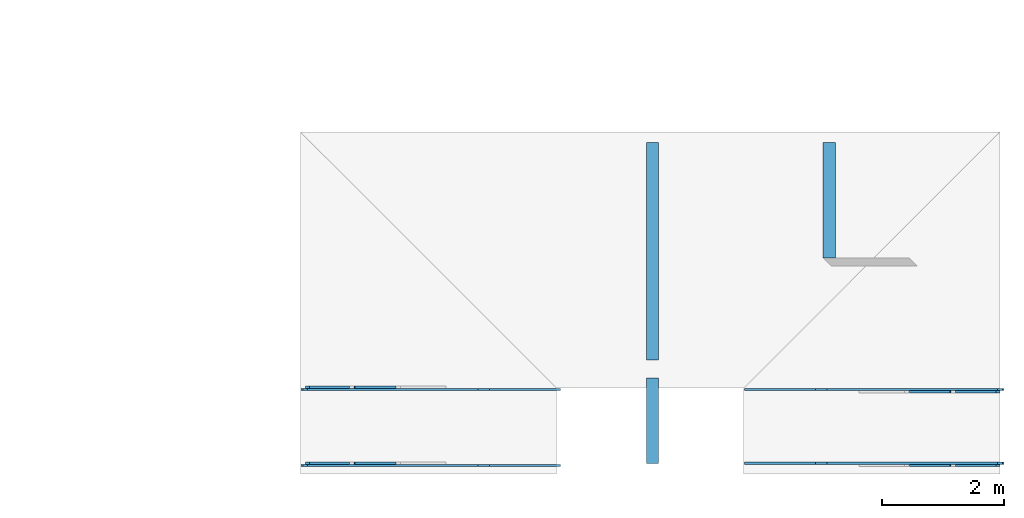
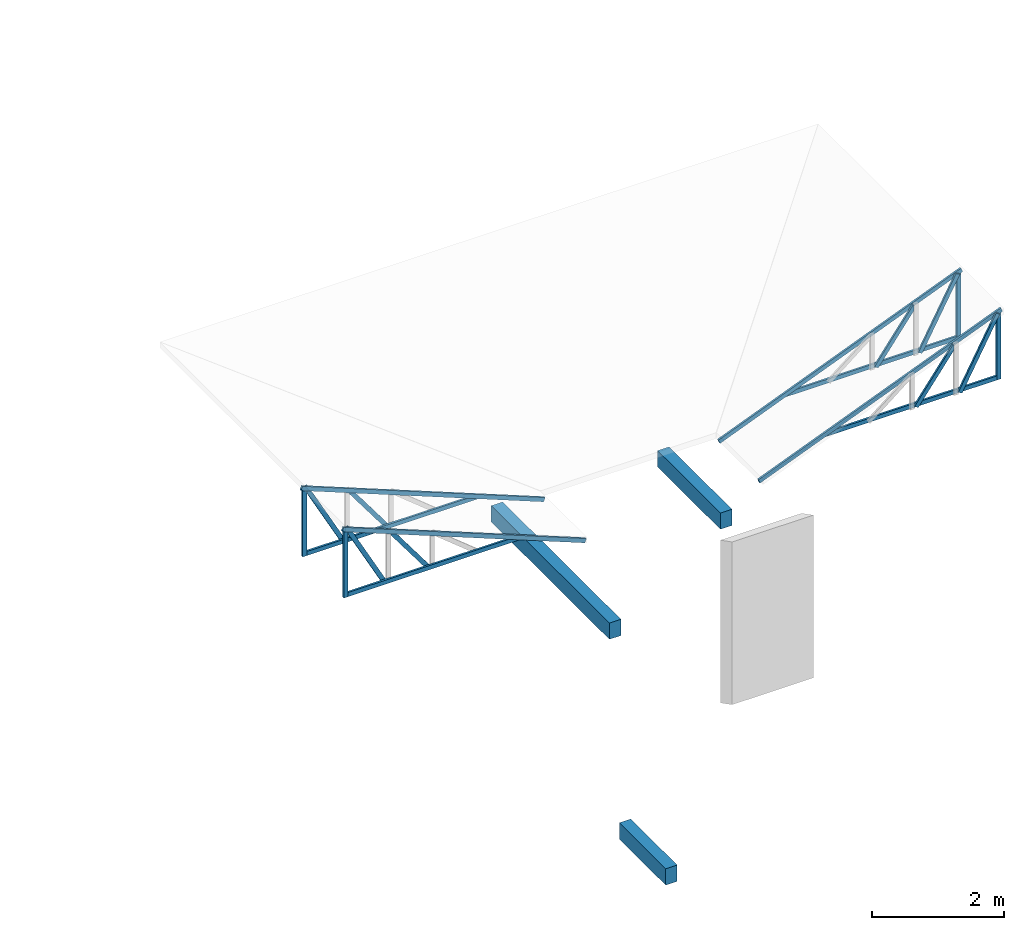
# One storey, part 1 of 4: 20 members, 3 beams, 4 elements without a shape of their own.
"""IFC4X3_ADD2 building model written with IfcOpenShell, lengths in millimetres."""

from ifc_helpers import new_model, entity, si_unit, converted_unit, frame, origin_with_axes, origin_2d_with_axis, place, context, subcontext, project, spatial, rectangle, extrude, clip, halfspace, material, material_profile, profile_set, profile_usage, type_object, element, aggregate, save


model = new_model("IFC4X3_ADD2")

# Units and contexts
model_context = context("Model", 3, precision=1e-05, world=origin_with_axes())
plan_context = context("Plan", 2, precision=1e-05, world=origin_2d_with_axis())
body_context = subcontext(model_context, "Body", "Model", "MODEL_VIEW")
ifc_project = project(units=[si_unit("VOLUMEUNIT", "CUBIC_METRE"), si_unit("LENGTHUNIT", "METRE", prefix="MILLI"), converted_unit("PLANEANGLEUNIT", "degree", entity("IfcReal", 0.0174532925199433), si_unit("PLANEANGLEUNIT", "RADIAN"), dimensions=[0, 0, 0, 0, 0, 0, 0]), si_unit("AREAUNIT", "SQUARE_METRE")], contexts=[model_context, plan_context])

# Site, building, storey
site_placement = place(None, origin_with_axes())
site = spatial("IfcSite", under=ifc_project, at=site_placement, Name="My Site")
building_placement = place(site_placement, origin_with_axes())
building = spatial("IfcBuilding", under=site, at=building_placement, Name="My Building")
storey_placement = place(building_placement, origin_with_axes())
storey = spatial("IfcBuildingStorey", under=building, at=storey_placement, Name="Riang Blok")

# Beams
ifc_material_1 = material(Name="plester")
ifc_material_profile_1 = material_profile(ifc_material_1, rectangle(XDim=200.0, YDim=300.0))
ifc_profile_set_1 = profile_set([ifc_material_profile_1])
ifc_profile_usage_1 = profile_usage(ifc_profile_set_1, cardinal=8)
beam_type = type_object("IfcBeamType", Name="TB1", PredefinedType="BEAM", material=ifc_profile_set_1)
beam_1_placement = place(storey_placement, frame((5720.00026702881, 1549.99983310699, 0.0), z_axis=(0.0, -0.999999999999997, 7.54978986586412e-08), x_axis=(1.0, 0.0, 0.0)))
element("IfcBeam", 1, at=beam_1_placement, inside=storey, type_object=beam_type, material=ifc_profile_usage_1, Name="Beam", context=body_context, shape_type="SweptSolid", body=[
    extrude(rectangle(XDim=200.0, YDim=300.0), frame((0.0, -150.0, 0.0), z_axis=(0.0, 0.0, 1.0), x_axis=(1.0, 0.0, 0.0)), (0.0, 0.0, 1.0), 1399.99984332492),
])
ifc_profile_usage_2 = profile_usage(ifc_profile_set_1, cardinal=8)
beam_2_placement = place(storey_placement, frame((5720.00026702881, 5419.99959945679, 3500.00023841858), z_axis=(0.0, -0.999999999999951, 3.13916473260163e-07), x_axis=(1.0, 0.0, 0.0)))
element("IfcBeam", 2, at=beam_2_placement, inside=storey, type_object=beam_type, material=ifc_profile_usage_2, Name="Beam", context=body_context, shape_type="SweptSolid", body=[
    extrude(rectangle(XDim=200.0, YDim=300.0), frame((0.0, -150.0, 0.0), z_axis=(0.0, 0.0, 1.0), x_axis=(1.0, 0.0, 0.0)), (0.0, 0.0, 1.0), 3569.99943068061),
])
ifc_profile_usage_3 = profile_usage(ifc_profile_set_1, cardinal=9)
beam_3_placement = place(storey_placement, frame((8520.00045776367, 5419.99959945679, 3500.00023841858), z_axis=(0.0, -0.999999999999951, 3.13916473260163e-07), x_axis=(1.0, 0.0, 0.0)))
element("IfcBeam", 3, at=beam_3_placement, inside=storey, type_object=beam_type, material=ifc_profile_usage_3, Name="Beam", context=body_context, shape_type="SweptSolid", body=[
    extrude(rectangle(XDim=200.0, YDim=300.0), frame((100.0, -150.0, 0.0), z_axis=(0.0, 0.0, 1.0), x_axis=(1.0, 0.0, 0.0)), (0.0, 0.0, 1.0), 1899.99959594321),
])

# Assembly, members
assembly_1_placement = place(storey_placement, frame((11460.0009918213, 135.63671708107, 6999.99952316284), z_axis=(0.0, 0.0, 1.0), x_axis=(-0.999999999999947, 3.25841369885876e-07, 0.0)))
assembly_1 = element("IfcElementAssembly", 4, at=assembly_1_placement, inside=storey, Name="KUDA KUDA_1")
ifc_material_2 = material(Name="Galvanis")
ifc_material_profile_2 = material_profile(ifc_material_2, rectangle(XDim=35.0, YDim=75.0))
ifc_profile_set_2 = profile_set([ifc_material_profile_2])
ifc_profile_usage_4 = profile_usage(ifc_profile_set_2, cardinal=8)
member_type = type_object("IfcMemberType", Name="C75", PredefinedType="MEMBER", material=ifc_profile_set_2)
member_1_placement = place(assembly_1_placement, frame((4230.94511602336, -17.4996030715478, -385.380744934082), z_axis=(-0.928827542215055, 1.77179023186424e-07, 0.370512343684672), x_axis=(-1.62920684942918e-07, -0.999999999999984, 6.97784727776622e-08)))
member_1 = element("IfcMember", 5, at=member_1_placement, type_object=member_type, material=ifc_profile_usage_4, Name="Member", context=body_context, shape_type="SweptSolid", body=[
    extrude(rectangle(XDim=35.0, YDim=75.0), frame((0.0, -37.5, 0.0), z_axis=(0.0, 0.0, 1.0), x_axis=(1.0, 0.0, 0.0)), (0.0, 0.0, 1.0), 4555.14518833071),
])
ifc_profile_usage_5 = profile_usage(ifc_profile_set_2, cardinal=8)
member_2_placement = place(assembly_1_placement, frame((700.000757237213, 17.5001592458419, 0.0), z_axis=(-0.47343433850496, 1.25252025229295e-07, 0.880829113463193), x_axis=(7.54978941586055e-08, 0.999999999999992, -1.01618709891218e-07)))
member_2 = element("IfcMember", 6, at=member_2_placement, type_object=member_type, material=ifc_profile_usage_5, Name="Member", context=body_context, shape_type="SweptSolid", body=[
    extrude(rectangle(XDim=35.0, YDim=75.0), frame((0.0, -37.5, 0.0), z_axis=(0.0, 0.0, 1.0), x_axis=(1.0, 0.0, 0.0)), (0.0, 0.0, 1.0), 1391.96378578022),
])
ifc_profile_usage_6 = profile_usage(ifc_profile_set_2, cardinal=8)
member_3_placement = place(assembly_1_placement, frame((5.70219782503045e-06, -17.4999237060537, 1296.60940170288), z_axis=(8.74228181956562e-08, -3.89414367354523e-07, -0.999999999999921), x_axis=(1.62920684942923e-07, -0.999999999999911, 3.8941436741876e-07)))
member_3 = element("IfcMember", 7, at=member_3_placement, type_object=member_type, material=ifc_profile_usage_6, Name="Member", context=body_context, shape_type="Clipping", body=[
    clip(extrude(rectangle(XDim=35.0, YDim=75.0), frame((0.0, -37.5, 0.0), z_axis=(0.0, 0.0, 1.0), x_axis=(1.0, 0.0, 0.0)), (0.0, 0.0, 1.0), 1296.6089090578), halfspace(frame((-0.0003221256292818, -4203.15599441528, 1751.65259838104), z_axis=(4.8014862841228e-07, -0.370512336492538, -0.928827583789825), x_axis=(-0.99999999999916, -1.29590456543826e-06, 0.0)), False)),
])
ifc_profile_usage_7 = profile_usage(ifc_profile_set_2, cardinal=8)
member_4_placement = place(assembly_1_placement, frame((1466.0625400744, 17.4994551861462, 0.00095367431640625), z_axis=(-0.59614749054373, 7.2466860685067e-08, 0.802874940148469), x_axis=(7.54978941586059e-08, 0.999999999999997, -3.42008306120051e-08)))
member_4 = element("IfcMember", 8, at=member_4_placement, type_object=member_type, material=ifc_profile_usage_7, Name="Member", context=body_context, shape_type="Clipping", body=[
    clip(extrude(rectangle(XDim=35.0, YDim=75.0), frame((0.0, -37.5, 0.0), z_axis=(0.0, 0.0, 1.0), x_axis=(1.0, 0.0, 0.0)), (0.0, 0.0, 1.0), 1123.39629998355), halfspace(frame((0.000651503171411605, -71.6517344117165, 1144.89555358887), z_axis=(-2.52327623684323e-07, 0.802874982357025, 0.596147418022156), x_axis=(0.999999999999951, 3.14280092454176e-07, 0.0)), False)),
])
ifc_profile_usage_8 = profile_usage(ifc_profile_set_2, cardinal=2)
member_5_placement = place(assembly_1_placement, frame((75.0007686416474, -17.4998992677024, 0.0), z_axis=(0.999999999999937, 1.62920770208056e-07, 3.13916473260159e-07), x_axis=(-1.62920684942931e-07, 0.999999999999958, -2.38418536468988e-07)))
member_5 = element("IfcMember", 9, at=member_5_placement, type_object=member_type, material=ifc_profile_usage_8, Name="Member", context=body_context, shape_type="Clipping", body=[
    clip(extrude(rectangle(XDim=35.0, YDim=75.0), frame((0.0, 37.5, 0.0), z_axis=(0.0, 0.0, 1.0), x_axis=(1.0, 0.0, 0.0)), (0.0, 0.0, 1.0), 3062.4179439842), halfspace(frame((-0.000269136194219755, -455.043941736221, 4128.15570831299), z_axis=(-3.39899543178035e-07, 0.928827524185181, 0.370512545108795), x_axis=(0.999999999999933, 3.65944736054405e-07, 0.0)), False)),
])
aggregate(assembly_1, [member_1, member_2, member_3, member_4, member_5])

assembly_2_placement = place(storey_placement, frame((-19.9997760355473, 135.000050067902, 6997.18856811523), z_axis=(0.0, 0.0, 1.0), x_axis=(1.0, 0.0, 0.0)))
assembly_2 = element("IfcElementAssembly", 10, at=assembly_2_placement, inside=storey, Name="KUDA KUDA_0")
ifc_profile_usage_9 = profile_usage(ifc_profile_set_2, cardinal=8)
member_6_placement = place(assembly_2_placement, frame((4230.94490543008, -17.4995958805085, -385.380744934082), z_axis=(-0.928827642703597, 1.90105891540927e-07, 0.370512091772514), x_axis=(-1.62920684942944e-07, -0.999999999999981, 1.04667726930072e-07)))
member_6 = element("IfcMember", 11, at=member_6_placement, type_object=member_type, material=ifc_profile_usage_9, Name="Member.001", context=body_context, shape_type="SweptSolid", body=[
    extrude(rectangle(XDim=35.0, YDim=75.0), frame((0.0, -37.5, 0.0), z_axis=(0.0, 0.0, 1.0), x_axis=(1.0, 0.0, 0.0)), (0.0, 0.0, 1.0), 4555.14518833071),
])
ifc_profile_usage_10 = profile_usage(ifc_profile_set_2, cardinal=8)
member_7_placement = place(assembly_2_placement, frame((700.000796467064, 17.5001621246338, 0.0), z_axis=(-0.473434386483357, 6.93084101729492e-08, 0.880829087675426), x_axis=(-4.37113882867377e-08, 0.999999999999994, -1.02179740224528e-07)))
member_7 = element("IfcMember", 12, at=member_7_placement, type_object=member_type, material=ifc_profile_usage_10, Name="Member.002", context=body_context, shape_type="SweptSolid", body=[
    extrude(rectangle(XDim=35.0, YDim=75.0), frame((0.0, -37.5, 0.0), z_axis=(0.0, 0.0, 1.0), x_axis=(1.0, 0.0, 0.0)), (0.0, 0.0, 1.0), 1391.96378578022),
])
ifc_profile_usage_11 = profile_usage(ifc_profile_set_2, cardinal=8)
member_8_placement = place(assembly_2_placement, frame((1466.06246009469, 17.4994617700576, 0.00095367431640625), z_axis=(-0.596147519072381, 8.8617830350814e-10, 0.802874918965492), x_axis=(-4.37113882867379e-08, 0.999999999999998, -3.3560166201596e-08)))
member_8 = element("IfcMember", 13, at=member_8_placement, type_object=member_type, material=ifc_profile_usage_11, Name="Member.003", context=body_context, shape_type="Clipping", body=[
    clip(extrude(rectangle(XDim=35.0, YDim=75.0), frame((0.0, -37.5, 0.0), z_axis=(0.0, 0.0, 1.0), x_axis=(1.0, 0.0, 0.0)), (0.0, 0.0, 1.0), 1123.39629998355), halfspace(frame((0.000651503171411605, -71.6517344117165, 1144.89555358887), z_axis=(-2.52327623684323e-07, 0.802874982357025, 0.596147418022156), x_axis=(0.999999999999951, 3.14280092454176e-07, 0.0)), False)),
])
ifc_profile_usage_12 = profile_usage(ifc_profile_set_2, cardinal=8)
member_9_placement = place(assembly_2_placement, frame((5.58793544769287e-06, -17.4999162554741, 1296.60987854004), z_axis=(1.50995873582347e-07, -3.89414338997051e-07, -0.999999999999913), x_axis=(1.94707183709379e-07, -0.999999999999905, 3.89414367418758e-07)))
member_9 = element("IfcMember", 14, at=member_9_placement, type_object=member_type, material=ifc_profile_usage_12, Name="Member.005", context=body_context, shape_type="Clipping", body=[
    clip(extrude(rectangle(XDim=35.0, YDim=75.0), frame((0.0, -37.5, 0.0), z_axis=(0.0, 0.0, 1.0), x_axis=(1.0, 0.0, 0.0)), (0.0, 0.0, 1.0), 1296.6089090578), halfspace(frame((-0.0003221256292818, -4203.15599441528, 1751.65259838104), z_axis=(4.8014862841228e-07, -0.370512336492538, -0.928827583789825), x_axis=(-0.99999999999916, -1.29590456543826e-06, 0.0)), False)),
])
ifc_profile_usage_13 = profile_usage(ifc_profile_set_2, cardinal=2)
member_10_placement = place(assembly_2_placement, frame((75.0007703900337, -17.4998939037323, 0.0), z_axis=(0.999999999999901, 4.01339292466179e-07, 1.94707183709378e-07), x_axis=(-4.01339264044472e-07, 0.999999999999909, -1.49011640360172e-07)))
member_10 = element("IfcMember", 15, at=member_10_placement, type_object=member_type, material=ifc_profile_usage_13, Name="Member.007", context=body_context, shape_type="Clipping", body=[
    clip(extrude(rectangle(XDim=35.0, YDim=75.0), frame((0.0, 37.5, 0.0), z_axis=(0.0, 0.0, 1.0), x_axis=(1.0, 0.0, 0.0)), (0.0, 0.0, 1.0), 3062.4179439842), halfspace(frame((-0.000269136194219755, -455.043941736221, 4128.15570831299), z_axis=(-3.39899543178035e-07, 0.928827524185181, 0.370512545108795), x_axis=(0.999999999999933, 3.65944736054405e-07, 0.0)), False)),
])
aggregate(assembly_2, [member_6, member_7, member_8, member_9, member_10])

assembly_3_placement = place(storey_placement, frame((-19.7176039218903, 1382.21764564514, 6997.0760345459), z_axis=(0.0, 0.0, 1.0), x_axis=(1.0, 0.0, 0.0)))
assembly_3 = element("IfcElementAssembly", 16, at=assembly_3_placement, inside=storey, Name="KUDA KUDA_2")
ifc_profile_usage_14 = profile_usage(ifc_profile_set_2, cardinal=8)
member_11_placement = place(assembly_3_placement, frame((4230.94502091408, -17.4995660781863, -385.380744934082), z_axis=(-0.928827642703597, 1.90105891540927e-07, 0.370512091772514), x_axis=(-1.62920684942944e-07, -0.999999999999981, 1.04667726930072e-07)))
member_11 = element("IfcMember", 17, at=member_11_placement, type_object=member_type, material=ifc_profile_usage_14, Name="Member.015", context=body_context, shape_type="SweptSolid", body=[
    extrude(rectangle(XDim=35.0, YDim=75.0), frame((0.0, -37.5, 0.0), z_axis=(0.0, 0.0, 1.0), x_axis=(1.0, 0.0, 0.0)), (0.0, 0.0, 1.0), 4555.14518833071),
])
ifc_profile_usage_15 = profile_usage(ifc_profile_set_2, cardinal=8)
member_12_placement = place(assembly_3_placement, frame((700.000792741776, 17.5001621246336, 0.0), z_axis=(-0.473434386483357, 6.93084101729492e-08, 0.880829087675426), x_axis=(-4.37113882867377e-08, 0.999999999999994, -1.02179740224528e-07)))
member_12 = element("IfcMember", 18, at=member_12_placement, type_object=member_type, material=ifc_profile_usage_15, Name="Member.113", context=body_context, shape_type="SweptSolid", body=[
    extrude(rectangle(XDim=35.0, YDim=75.0), frame((0.0, -37.5, 0.0), z_axis=(0.0, 0.0, 1.0), x_axis=(1.0, 0.0, 0.0)), (0.0, 0.0, 1.0), 1391.96378578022),
])
ifc_profile_usage_16 = profile_usage(ifc_profile_set_2, cardinal=8)
member_13_placement = place(assembly_3_placement, frame((1466.0624563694, 17.4994468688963, 0.00095367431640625), z_axis=(-0.596147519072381, 8.8617830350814e-10, 0.802874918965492), x_axis=(-4.37113882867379e-08, 0.999999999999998, -3.3560166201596e-08)))
member_13 = element("IfcMember", 19, at=member_13_placement, type_object=member_type, material=ifc_profile_usage_16, Name="Member.114", context=body_context, shape_type="Clipping", body=[
    clip(extrude(rectangle(XDim=35.0, YDim=75.0), frame((0.0, -37.5, 0.0), z_axis=(0.0, 0.0, 1.0), x_axis=(1.0, 0.0, 0.0)), (0.0, 0.0, 1.0), 1123.39629998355), halfspace(frame((0.000651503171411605, -71.6517344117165, 1144.89555358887), z_axis=(-2.52327623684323e-07, 0.802874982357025, 0.596147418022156), x_axis=(0.999999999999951, 3.14280092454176e-07, 0.0)), False)),
])
ifc_profile_usage_17 = profile_usage(ifc_profile_set_2, cardinal=8)
member_14_placement = place(assembly_3_placement, frame((5.58793544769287e-06, -17.4999237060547, 1296.60987854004), z_axis=(1.50995873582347e-07, -3.89414338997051e-07, -0.999999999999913), x_axis=(1.94707183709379e-07, -0.999999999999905, 3.89414367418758e-07)))
member_14 = element("IfcMember", 20, at=member_14_placement, type_object=member_type, material=ifc_profile_usage_17, Name="Member.117", context=body_context, shape_type="Clipping", body=[
    clip(extrude(rectangle(XDim=35.0, YDim=75.0), frame((0.0, -37.5, 0.0), z_axis=(0.0, 0.0, 1.0), x_axis=(1.0, 0.0, 0.0)), (0.0, 0.0, 1.0), 1296.6089090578), halfspace(frame((-0.0003221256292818, -4203.15599441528, 1751.65259838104), z_axis=(4.8014862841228e-07, -0.370512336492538, -0.928827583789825), x_axis=(-0.99999999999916, -1.29590456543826e-06, 0.0)), False)),
])
ifc_profile_usage_18 = profile_usage(ifc_profile_set_2, cardinal=2)
member_15_placement = place(assembly_3_placement, frame((75.0007703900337, -17.4999237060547, 0.0), z_axis=(0.999999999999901, 4.01339292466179e-07, 1.94707183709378e-07), x_axis=(-4.01339264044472e-07, 0.999999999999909, -1.49011640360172e-07)))
member_15 = element("IfcMember", 21, at=member_15_placement, type_object=member_type, material=ifc_profile_usage_18, Name="Member.120", context=body_context, shape_type="Clipping", body=[
    clip(extrude(rectangle(XDim=35.0, YDim=75.0), frame((0.0, 37.5, 0.0), z_axis=(0.0, 0.0, 1.0), x_axis=(1.0, 0.0, 0.0)), (0.0, 0.0, 1.0), 3062.4179439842), halfspace(frame((-0.000269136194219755, -455.043941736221, 4128.15570831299), z_axis=(-3.39899543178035e-07, 0.928827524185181, 0.370512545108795), x_axis=(0.999999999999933, 3.65944736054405e-07, 0.0)), False)),
])
aggregate(assembly_3, [member_11, member_12, member_13, member_14, member_15])

assembly_4_placement = place(storey_placement, frame((11459.9990844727, 1342.49949455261, 6999.99952316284), z_axis=(0.0, 0.0, 1.0), x_axis=(-0.999999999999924, -3.89414367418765e-07, 0.0)))
assembly_4 = element("IfcElementAssembly", 22, at=assembly_4_placement, inside=storey, Name="KUDA KUDA_3")
ifc_profile_usage_19 = profile_usage(ifc_profile_set_2, cardinal=8)
member_16_placement = place(assembly_4_placement, frame((4230.94510350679, -17.4995447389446, -385.380744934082), z_axis=(-0.928827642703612, 1.08838338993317e-07, 0.370512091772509), x_axis=(-1.07284392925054e-07, -0.999999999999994, 2.4802471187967e-08)))
member_16 = element("IfcMember", 23, at=member_16_placement, type_object=member_type, material=ifc_profile_usage_19, Name="Member.175", context=body_context, shape_type="SweptSolid", body=[
    extrude(rectangle(XDim=35.0, YDim=75.0), frame((0.0, -37.5, 0.0), z_axis=(0.0, 0.0, 1.0), x_axis=(1.0, 0.0, 0.0)), (0.0, 0.0, 1.0), 4555.14518833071),
])
ifc_profile_usage_20 = profile_usage(ifc_profile_set_2, cardinal=8)
member_17_placement = place(assembly_4_placement, frame((700.000769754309, 17.5001279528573, 0.0), z_axis=(-0.473434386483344, 1.26240339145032e-07, 0.880829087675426), x_axis=(7.54978941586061e-08, 0.999999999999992, -1.02740756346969e-07)))
member_17 = element("IfcMember", 24, at=member_17_placement, type_object=member_type, material=ifc_profile_usage_20, Name="Member.180", context=body_context, shape_type="SweptSolid", body=[
    extrude(rectangle(XDim=35.0, YDim=75.0), frame((0.0, -37.5, 0.0), z_axis=(0.0, 0.0, 1.0), x_axis=(1.0, 0.0, 0.0)), (0.0, 0.0, 1.0), 1391.96378578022),
])
ifc_profile_usage_21 = profile_usage(ifc_profile_set_2, cardinal=8)
member_18_placement = place(assembly_4_placement, frame((1466.06255259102, 17.4994720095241, 0.00095367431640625), z_axis=(-0.596147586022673, 2.0269005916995e-07, 0.802874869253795), x_axis=(3.13916466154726e-07, 0.999999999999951, -1.93672953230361e-08)))
member_18 = element("IfcMember", 25, at=member_18_placement, type_object=member_type, material=ifc_profile_usage_21, Name="Member.177", context=body_context, shape_type="Clipping", body=[
    clip(extrude(rectangle(XDim=35.0, YDim=75.0), frame((0.0, -37.5, 0.0), z_axis=(0.0, 0.0, 1.0), x_axis=(1.0, 0.0, 0.0)), (0.0, 0.0, 1.0), 1123.39629998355), halfspace(frame((0.000651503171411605, -71.6517344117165, 1144.89555358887), z_axis=(-2.52327623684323e-07, 0.802874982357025, 0.596147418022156), x_axis=(0.999999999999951, 3.14280092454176e-07, 0.0)), False)),
])
ifc_profile_usage_22 = profile_usage(ifc_profile_set_2, cardinal=8)
member_19_placement = place(assembly_4_placement, frame((-6.81472123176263e-06, -17.4999237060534, 1296.60940170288), z_axis=(8.74228238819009e-08, -3.89414344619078e-07, -0.999999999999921), x_axis=(2.82129974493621e-07, -0.999999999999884, 3.89414367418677e-07)))
member_19 = element("IfcMember", 26, at=member_19_placement, type_object=member_type, material=ifc_profile_usage_22, Name="Member.179", context=body_context, shape_type="Clipping", body=[
    clip(extrude(rectangle(XDim=35.0, YDim=75.0), frame((0.0, -37.5, 0.0), z_axis=(0.0, 0.0, 1.0), x_axis=(1.0, 0.0, 0.0)), (0.0, 0.0, 1.0), 1296.6089090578), halfspace(frame((-0.0003221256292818, -4203.15599441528, 1751.65259838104), z_axis=(4.8014862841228e-07, -0.370512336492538, -0.928827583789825), x_axis=(-0.99999999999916, -1.29590456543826e-06, 0.0)), False)),
])
ifc_profile_usage_23 = profile_usage(ifc_profile_set_2, cardinal=2)
member_20_placement = place(assembly_4_placement, frame((75.0007561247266, -17.499952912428, 0.0), z_axis=(0.999999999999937, 1.6292074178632e-07, 3.13916473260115e-07), x_axis=(-1.62920684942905e-07, 0.999999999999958, -2.38418692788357e-07)))
member_20 = element("IfcMember", 27, at=member_20_placement, type_object=member_type, material=ifc_profile_usage_23, Name="Member.181", context=body_context, shape_type="Clipping", body=[
    clip(extrude(rectangle(XDim=35.0, YDim=75.0), frame((0.0, 37.5, 0.0), z_axis=(0.0, 0.0, 1.0), x_axis=(1.0, 0.0, 0.0)), (0.0, 0.0, 1.0), 3062.4179439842), halfspace(frame((-0.000269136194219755, -455.043941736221, 4128.15570831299), z_axis=(-3.39899543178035e-07, 0.928827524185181, 0.370512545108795), x_axis=(0.999999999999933, 3.65944736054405e-07, 0.0)), False)),
])
aggregate(assembly_4, [member_16, member_17, member_18, member_19, member_20])

save(model, "model.ifc")
